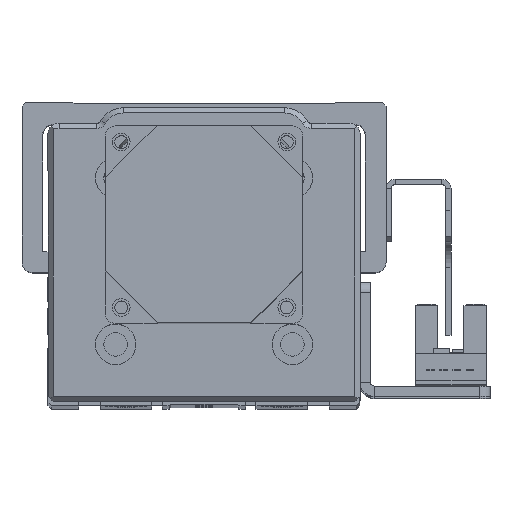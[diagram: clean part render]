
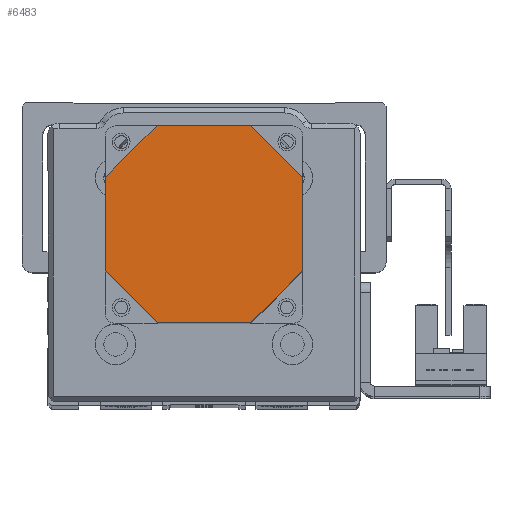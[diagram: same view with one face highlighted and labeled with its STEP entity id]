
A CAD part, top view. The second image highlights one B-rep face of the part: STEP entity #6483.
In plain terms, the highlighted planar face has unit normal (0, 0, 1) as drawn and (0, 0, -1) by its records, which use the part's own axes.
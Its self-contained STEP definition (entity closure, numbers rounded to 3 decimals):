
#968 = VERTEX_POINT ( 'NONE', #24684 ) ;
#983 = VERTEX_POINT ( 'NONE', #24718 ) ;
#992 = VERTEX_POINT ( 'NONE', #24682 ) ;
#1022 = VERTEX_POINT ( 'NONE', #24708 ) ;
#1030 = VERTEX_POINT ( 'NONE', #24709 ) ;
#1068 = VERTEX_POINT ( 'NONE', #24776 ) ;
#1082 = VERTEX_POINT ( 'NONE', #24761 ) ;
#1084 = VERTEX_POINT ( 'NONE', #24772 ) ;
#1952 = PLANE ( 'NONE',  #20989 ) ;
#1955 = CARTESIAN_POINT ( 'NONE',  ( 0., 0., -84. ) ) ;
#1957 = DIRECTION ( 'NONE',  ( 0., 0., 1. ) ) ;
#1961 = DIRECTION ( 'NONE',  ( 1., 0., 0. ) ) ;
#6483 = ADVANCED_FACE ( 'NONE', ( #13261 ), #1952, .F. ) ;
#10905 = ORIENTED_EDGE ( 'NONE', *, *, #20825, .T. ) ;
#10945 = ORIENTED_EDGE ( 'NONE', *, *, #20795, .T. ) ;
#10951 = ORIENTED_EDGE ( 'NONE', *, *, #20831, .T. ) ;
#10959 = ORIENTED_EDGE ( 'NONE', *, *, #20780, .T. ) ;
#10979 = ORIENTED_EDGE ( 'NONE', *, *, #20803, .T. ) ;
#10990 = ORIENTED_EDGE ( 'NONE', *, *, #20815, .T. ) ;
#10993 = ORIENTED_EDGE ( 'NONE', *, *, #20846, .T. ) ;
#11000 = ORIENTED_EDGE ( 'NONE', *, *, #20829, .T. ) ;
#13261 = FACE_OUTER_BOUND ( 'NONE', #14143, .T. ) ;
#14143 = EDGE_LOOP ( 'NONE', ( #10979, #10993, #10990, #10905, #10959, #10945, #11000, #10951 ) ) ;
#17064 = LINE ( 'NONE', #17625, #17065 ) ;
#17065 = VECTOR ( 'NONE', #17690, 1000. ) ;
#17103 = VECTOR ( 'NONE', #17762, 1000. ) ;
#17116 = LINE ( 'NONE', #17747, #17103 ) ;
#17122 = VECTOR ( 'NONE', #17743, 1000. ) ;
#17145 = LINE ( 'NONE', #17742, #17122 ) ;
#17147 = VECTOR ( 'NONE', #17677, 1000. ) ;
#17159 = LINE ( 'NONE', #17700, #17147 ) ;
#17169 = VECTOR ( 'NONE', #17796, 1000. ) ;
#17172 = LINE ( 'NONE', #17767, #17202 ) ;
#17173 = LINE ( 'NONE', #17755, #17198 ) ;
#17179 = VECTOR ( 'NONE', #17758, 1000. ) ;
#17196 = LINE ( 'NONE', #17753, #17179 ) ;
#17198 = VECTOR ( 'NONE', #17774, 1000. ) ;
#17202 = VECTOR ( 'NONE', #17746, 1000. ) ;
#17205 = LINE ( 'NONE', #17803, #17169 ) ;
#17625 = CARTESIAN_POINT ( 'NONE',  ( 19., 9., -84. ) ) ;
#17677 = DIRECTION ( 'NONE',  ( 0., -1., 0. ) ) ;
#17690 = DIRECTION ( 'NONE',  ( 0.707, -0.707, 0. ) ) ;
#17700 = CARTESIAN_POINT ( 'NONE',  ( 19., 9., -84. ) ) ;
#17742 = CARTESIAN_POINT ( 'NONE',  ( -9., -19., -84. ) ) ;
#17743 = DIRECTION ( 'NONE',  ( -0.707, 0.707, 0. ) ) ;
#17746 = DIRECTION ( 'NONE',  ( -0.707, -0.707, 0. ) ) ;
#17747 = CARTESIAN_POINT ( 'NONE',  ( -9., 19., -84. ) ) ;
#17753 = CARTESIAN_POINT ( 'NONE',  ( 9., 19., -84. ) ) ;
#17755 = CARTESIAN_POINT ( 'NONE',  ( 9., -19., -84. ) ) ;
#17758 = DIRECTION ( 'NONE',  ( 1., 0., 0. ) ) ;
#17762 = DIRECTION ( 'NONE',  ( 0.707, 0.707, 0. ) ) ;
#17767 = CARTESIAN_POINT ( 'NONE',  ( 19., -9., -84. ) ) ;
#17774 = DIRECTION ( 'NONE',  ( -1., 0., 0. ) ) ;
#17796 = DIRECTION ( 'NONE',  ( 0., 1., 0. ) ) ;
#17803 = CARTESIAN_POINT ( 'NONE',  ( -19., 9., -84. ) ) ;
#20780 = EDGE_CURVE ( 'NONE', #992, #1030, #17064, .T. ) ;
#20795 = EDGE_CURVE ( 'NONE', #1030, #968, #17159, .T. ) ;
#20803 = EDGE_CURVE ( 'NONE', #1068, #1084, #17145, .T. ) ;
#20815 = EDGE_CURVE ( 'NONE', #1022, #983, #17116, .T. ) ;
#20825 = EDGE_CURVE ( 'NONE', #983, #992, #17196, .T. ) ;
#20829 = EDGE_CURVE ( 'NONE', #968, #1082, #17172, .T. ) ;
#20831 = EDGE_CURVE ( 'NONE', #1082, #1068, #17173, .T. ) ;
#20846 = EDGE_CURVE ( 'NONE', #1084, #1022, #17205, .T. ) ;
#20989 = AXIS2_PLACEMENT_3D ( 'NONE', #1955, #1957, #1961 ) ;
#24682 = CARTESIAN_POINT ( 'NONE',  ( 9., 19., -84. ) ) ;
#24684 = CARTESIAN_POINT ( 'NONE',  ( 19., -9., -84. ) ) ;
#24708 = CARTESIAN_POINT ( 'NONE',  ( -19., 9., -84. ) ) ;
#24709 = CARTESIAN_POINT ( 'NONE',  ( 19., 9., -84. ) ) ;
#24718 = CARTESIAN_POINT ( 'NONE',  ( -9., 19., -84. ) ) ;
#24761 = CARTESIAN_POINT ( 'NONE',  ( 9., -19., -84. ) ) ;
#24772 = CARTESIAN_POINT ( 'NONE',  ( -19., -9., -84. ) ) ;
#24776 = CARTESIAN_POINT ( 'NONE',  ( -9., -19., -84. ) ) ;
